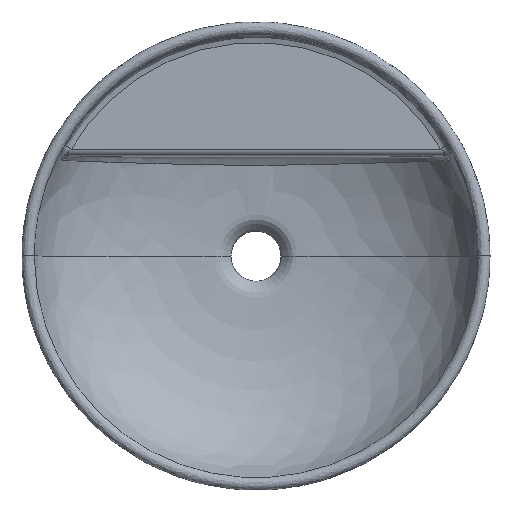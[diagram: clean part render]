
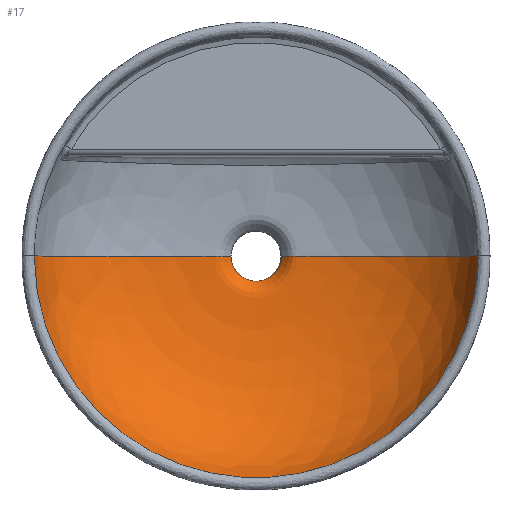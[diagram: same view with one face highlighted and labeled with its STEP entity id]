
A CAD part, top view. The second image highlights one B-rep face of the part: STEP entity #17.
In plain terms, the highlighted free-form (B-spline) face has degree [2, 2] with [11, 5] control points.
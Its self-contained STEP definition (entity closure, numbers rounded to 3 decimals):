
#17=ADVANCED_FACE('',(#30),#178,.T.);
#30=FACE_OUTER_BOUND('',#43,.T.);
#43=EDGE_LOOP('',(#63,#64,#65,#66));
#63=ORIENTED_EDGE('',*,*,#111,.F.);
#64=ORIENTED_EDGE('',*,*,#112,.T.);
#65=ORIENTED_EDGE('',*,*,#107,.T.);
#66=ORIENTED_EDGE('',*,*,#132,.F.);
#107=EDGE_CURVE('',#159,#170,#136,.T.);
#111=EDGE_CURVE('',#161,#172,#139,.T.);
#112=EDGE_CURVE('',#161,#159,#140,.T.);
#132=EDGE_CURVE('',#172,#170,#158,.T.);
#136=(
BOUNDED_CURVE()
B_SPLINE_CURVE(2,(#707,#708,#709,#710,#711),.UNSPECIFIED.,.F.,.F.)
B_SPLINE_CURVE_WITH_KNOTS((3,2,3),(0.,329.867,659.734),
 .UNSPECIFIED.)
CURVE()
GEOMETRIC_REPRESENTATION_ITEM()
RATIONAL_B_SPLINE_CURVE((1.,0.707,1.,0.707,1.))
REPRESENTATION_ITEM('')
);
#139=(
BOUNDED_CURVE()
B_SPLINE_CURVE(2,(#726,#727,#728,#729,#730),.UNSPECIFIED.,.F.,.F.)
B_SPLINE_CURVE_WITH_KNOTS((3,2,3),(0.,329.867,659.734),
 .UNSPECIFIED.)
CURVE()
GEOMETRIC_REPRESENTATION_ITEM()
RATIONAL_B_SPLINE_CURVE((1.,0.707,1.,0.707,1.))
REPRESENTATION_ITEM('')
);
#140=(
BOUNDED_CURVE()
B_SPLINE_CURVE(2,(#731,#732,#733,#734,#735,#736,#737,#738,#739,#740,#741),
 .UNSPECIFIED.,.F.,.F.)
B_SPLINE_CURVE_WITH_KNOTS((3,2,2,2,2,3),(345.792,358.721,
362.648,369.8,379.048,563.429),
 .UNSPECIFIED.)
CURVE()
GEOMETRIC_REPRESENTATION_ITEM()
RATIONAL_B_SPLINE_CURVE((1.,1.,1.,0.924,1.,1.,1.,0.927,
0.994,0.867,1.))
REPRESENTATION_ITEM('')
);
#158=(
BOUNDED_CURVE()
B_SPLINE_CURVE(2,(#1070,#1071,#1072,#1073,#1074,#1075,#1076,#1077,#1078,
#1079,#1080),.UNSPECIFIED.,.F.,.F.)
B_SPLINE_CURVE_WITH_KNOTS((3,2,2,2,2,3),(345.792,358.721,
362.648,369.8,379.048,563.429),
 .UNSPECIFIED.)
CURVE()
GEOMETRIC_REPRESENTATION_ITEM()
RATIONAL_B_SPLINE_CURVE((1.,1.,1.,0.924,1.,1.,1.,0.927,
0.994,0.867,1.))
REPRESENTATION_ITEM('')
);
#159=VERTEX_POINT('',#693);
#161=VERTEX_POINT('',#695);
#170=VERTEX_POINT('',#704);
#172=VERTEX_POINT('',#706);
#178=(
BOUNDED_SURFACE()
B_SPLINE_SURFACE(2,2,((#331,#332,#333,#334,#335),(#336,#337,#338,#339,#340),
(#341,#342,#343,#344,#345),(#346,#347,#348,#349,#350),(#351,#352,#353,#354,
#355),(#356,#357,#358,#359,#360),(#361,#362,#363,#364,#365),(#366,#367,
#368,#369,#370),(#371,#372,#373,#374,#375),(#376,#377,#378,#379,#380),(#381,
#382,#383,#384,#385)),.UNSPECIFIED.,.F.,.F.,.F.)
B_SPLINE_SURFACE_WITH_KNOTS((3,2,2,2,2,3),(3,2,3),(345.792,358.721,
362.648,369.8,379.048,563.429),(0.,
329.867,659.734),.UNSPECIFIED.)
GEOMETRIC_REPRESENTATION_ITEM()
RATIONAL_B_SPLINE_SURFACE(((1.,0.707,1.,0.707,1.),
(1.,0.707,1.,0.707,1.),(1.,0.707,1.,
0.707,1.),(0.924,0.653,0.924,
0.653,0.924),(1.,0.707,1.,0.707,
1.),(1.,0.707,1.,0.707,1.),(1.,0.707,
1.,0.707,1.),(0.927,0.655,0.927,
0.655,0.927),(0.994,0.703,
0.994,0.703,0.994),(0.849,
0.601,0.849,0.601,0.849),
(0.961,0.679,0.961,0.679,
0.961)))
REPRESENTATION_ITEM('')
SURFACE()
);
#331=CARTESIAN_POINT('',(-22.5,0.,0.));
#332=CARTESIAN_POINT('',(-22.5,-22.5,0.));
#333=CARTESIAN_POINT('',(0.,-22.5,0.));
#334=CARTESIAN_POINT('',(22.5,-22.5,0.));
#335=CARTESIAN_POINT('',(22.5,0.,0.));
#336=CARTESIAN_POINT('',(-22.5,0.,6.464));
#337=CARTESIAN_POINT('',(-22.5,-22.5,6.464));
#338=CARTESIAN_POINT('',(0.,-22.5,6.464));
#339=CARTESIAN_POINT('',(22.5,-22.5,6.464));
#340=CARTESIAN_POINT('',(22.5,0.,6.464));
#341=CARTESIAN_POINT('',(-22.5,0.,12.929));
#342=CARTESIAN_POINT('',(-22.5,-22.5,12.929));
#343=CARTESIAN_POINT('',(0.,-22.5,12.929));
#344=CARTESIAN_POINT('',(22.5,-22.5,12.929));
#345=CARTESIAN_POINT('',(22.5,0.,12.929));
#346=CARTESIAN_POINT('',(-22.5,0.,15.));
#347=CARTESIAN_POINT('',(-22.5,-22.5,15.));
#348=CARTESIAN_POINT('',(0.,-22.5,15.));
#349=CARTESIAN_POINT('',(22.5,-22.5,15.));
#350=CARTESIAN_POINT('',(22.5,0.,15.));
#351=CARTESIAN_POINT('',(-23.964,0.,16.464));
#352=CARTESIAN_POINT('',(-23.964,-23.964,16.464));
#353=CARTESIAN_POINT('',(0.,-23.964,16.464));
#354=CARTESIAN_POINT('',(23.964,-23.964,16.464));
#355=CARTESIAN_POINT('',(23.964,0.,16.464));
#356=CARTESIAN_POINT('',(-26.493,0.,18.993));
#357=CARTESIAN_POINT('',(-26.493,-26.493,18.993));
#358=CARTESIAN_POINT('',(0.,-26.493,18.993));
#359=CARTESIAN_POINT('',(26.493,-26.493,18.993));
#360=CARTESIAN_POINT('',(26.493,0.,18.993));
#361=CARTESIAN_POINT('',(-29.022,0.,21.522));
#362=CARTESIAN_POINT('',(-29.022,-29.022,21.522));
#363=CARTESIAN_POINT('',(0.,-29.022,21.522));
#364=CARTESIAN_POINT('',(29.022,-29.022,21.522));
#365=CARTESIAN_POINT('',(29.022,0.,21.522));
#366=CARTESIAN_POINT('',(-32.464,0.,24.964));
#367=CARTESIAN_POINT('',(-32.464,-32.464,24.964));
#368=CARTESIAN_POINT('',(0.,-32.464,24.964));
#369=CARTESIAN_POINT('',(32.464,-32.464,24.964));
#370=CARTESIAN_POINT('',(32.464,0.,24.964));
#371=CARTESIAN_POINT('',(-37.33,0.,25.035));
#372=CARTESIAN_POINT('',(-37.33,-37.33,25.035));
#373=CARTESIAN_POINT('',(0.,-37.33,25.035));
#374=CARTESIAN_POINT('',(37.33,-37.33,25.035));
#375=CARTESIAN_POINT('',(37.33,0.,25.035));
#376=CARTESIAN_POINT('',(-175.047,0.,27.065));
#377=CARTESIAN_POINT('',(-175.047,-175.047,27.065));
#378=CARTESIAN_POINT('',(0.,-175.047,27.065));
#379=CARTESIAN_POINT('',(175.047,-175.047,27.065));
#380=CARTESIAN_POINT('',(175.047,0.,27.065));
#381=CARTESIAN_POINT('',(-199.019,0.,115.869));
#382=CARTESIAN_POINT('',(-199.019,-199.019,115.869));
#383=CARTESIAN_POINT('',(0.,-199.019,115.869));
#384=CARTESIAN_POINT('',(199.019,-199.019,115.869));
#385=CARTESIAN_POINT('',(199.019,0.,115.869));
#693=CARTESIAN_POINT('',(-199.019,0.,115.869));
#695=CARTESIAN_POINT('',(-22.5,0.,0.));
#704=CARTESIAN_POINT('',(199.019,0.,115.869));
#706=CARTESIAN_POINT('',(22.5,0.,0.));
#707=CARTESIAN_POINT('',(-199.019,0.,115.869));
#708=CARTESIAN_POINT('',(-199.019,-199.019,115.869));
#709=CARTESIAN_POINT('',(0.,-199.019,115.869));
#710=CARTESIAN_POINT('',(199.019,-199.019,115.869));
#711=CARTESIAN_POINT('',(199.019,0.,115.869));
#726=CARTESIAN_POINT('',(-22.5,0.,0.));
#727=CARTESIAN_POINT('',(-22.5,-22.5,0.));
#728=CARTESIAN_POINT('',(0.,-22.5,0.));
#729=CARTESIAN_POINT('',(22.5,-22.5,0.));
#730=CARTESIAN_POINT('',(22.5,0.,0.));
#731=CARTESIAN_POINT('',(-22.5,0.,0.));
#732=CARTESIAN_POINT('',(-22.5,0.,6.464));
#733=CARTESIAN_POINT('',(-22.5,0.,12.929));
#734=CARTESIAN_POINT('',(-22.5,0.,15.));
#735=CARTESIAN_POINT('',(-23.964,0.,16.464));
#736=CARTESIAN_POINT('',(-26.493,0.,18.993));
#737=CARTESIAN_POINT('',(-29.022,0.,21.522));
#738=CARTESIAN_POINT('',(-32.464,0.,24.964));
#739=CARTESIAN_POINT('',(-37.33,0.,25.035));
#740=CARTESIAN_POINT('',(-175.047,0.,27.065));
#741=CARTESIAN_POINT('',(-199.019,0.,115.869));
#1070=CARTESIAN_POINT('',(22.5,0.,0.));
#1071=CARTESIAN_POINT('',(22.5,0.,6.464));
#1072=CARTESIAN_POINT('',(22.5,0.,12.929));
#1073=CARTESIAN_POINT('',(22.5,0.,15.));
#1074=CARTESIAN_POINT('',(23.964,0.,16.464));
#1075=CARTESIAN_POINT('',(26.493,0.,18.993));
#1076=CARTESIAN_POINT('',(29.022,0.,21.522));
#1077=CARTESIAN_POINT('',(32.464,0.,24.964));
#1078=CARTESIAN_POINT('',(37.33,0.,25.035));
#1079=CARTESIAN_POINT('',(175.047,0.,27.065));
#1080=CARTESIAN_POINT('',(199.019,0.,115.869));
